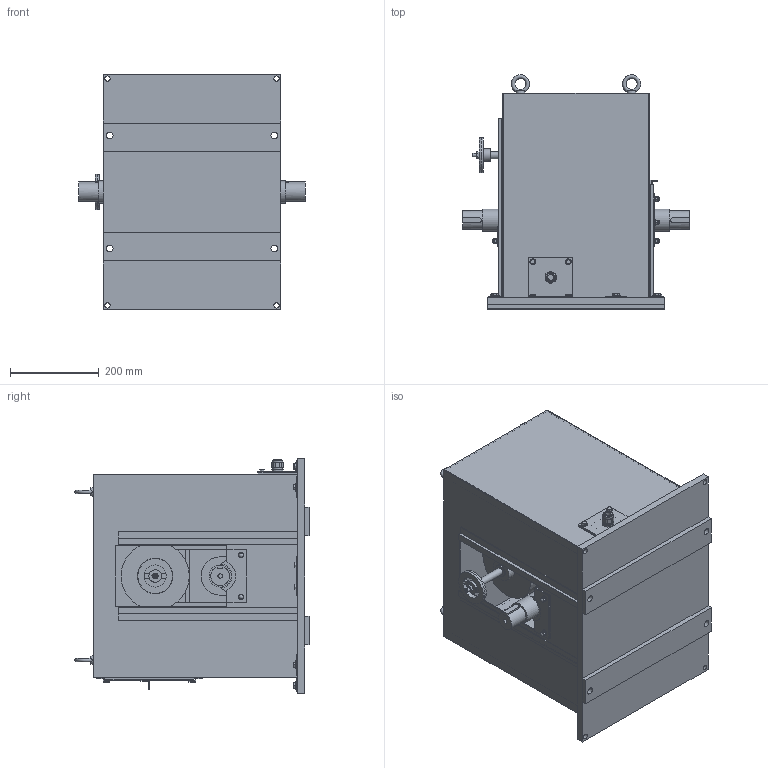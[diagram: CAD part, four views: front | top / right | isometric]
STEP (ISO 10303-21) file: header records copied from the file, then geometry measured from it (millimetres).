
FILE_DESCRIPTION (( 'STEP AP203' ), '1' );
FILE_NAME ('ECE-0813S-05_水門用直流電磁ブレーキ.STEP', '2025-11-11T03:29:58', ( '' ), ( '' ), 'SwSTEP 2.0', 'SolidWorks 2019', '' );
FILE_SCHEMA (( 'CONFIG_CONTROL_DESIGN' ));
Length unit declared in the file: millimetre
Products named in the file (1): ECE-0813S-05_水門用直流電磁ブレーキ
Bounding box: 510 x 526.47 x 530 mm (x, y, z)
Volume: 11838122 mm3; surface area: 2818450.3 mm2
Topology: 3 solids, 3 shells, 972 faces, 2433 edges, 1553 vertices
Faces by surface type: plane 668, cone 154, cylinder 134, sphere 12, torus 4
Full cylindrical faces by diameter (mm): 6 x8, 8 x4, 8.5 x4, 10 x17, 12 x4, 13 x18, 15 x8, 16 x1, 18 x7, 20 x1, 22 x1, 23 x1, 28 x3, 42 x2, 50 x4, 153 x1
Entity records: 29189 total; most frequent: CARTESIAN_POINT 6653, ORIENTED_EDGE 4602, DIRECTION 4376, EDGE_CURVE 2301, VECTOR 1560, LINE 1560, VERTEX_POINT 1519, AXIS2_PLACEMENT_3D 1408
